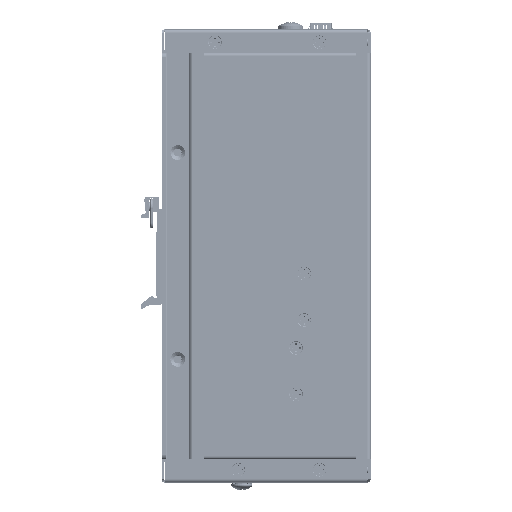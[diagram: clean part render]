
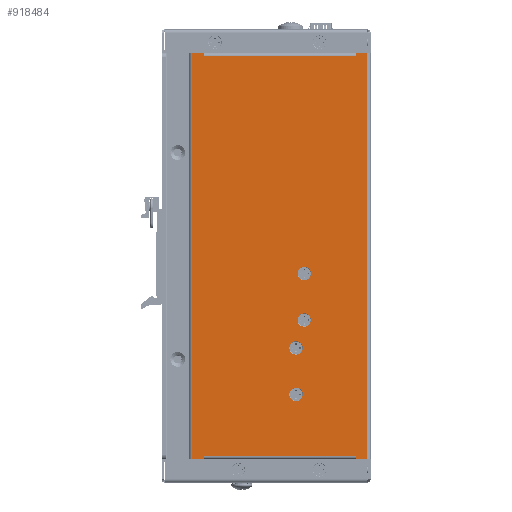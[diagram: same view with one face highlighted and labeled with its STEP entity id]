
A CAD part, left-side view. The second image highlights one B-rep face of the part: STEP entity #918484.
In plain terms, the highlighted planar face has unit normal (-1, 0, 0).
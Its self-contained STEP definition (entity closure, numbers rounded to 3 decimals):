
#913513=DIRECTION('',(0.,-1.,0.));
#913514=VECTOR('',#913513,5.);
#913515=CARTESIAN_POINT('',(-100.,6.4,-184.9));
#913516=LINE('',#913515,#913514);
#913517=DIRECTION('',(0.,0.,-1.));
#913518=VECTOR('',#913517,1.3);
#913519=CARTESIAN_POINT('',(-100.,6.4,-183.6));
#913520=LINE('',#913519,#913518);
#913521=DIRECTION('',(0.,0.,-1.));
#913522=VECTOR('',#913521,1.3);
#913523=CARTESIAN_POINT('',(-100.,71.7,-183.6));
#913524=LINE('',#913523,#913522);
#913525=DIRECTION('',(0.,-1.,0.));
#913526=VECTOR('',#913525,5.);
#913527=CARTESIAN_POINT('',(-100.,76.7,-184.9));
#913528=LINE('',#913527,#913526);
#913529=DIRECTION('',(0.,1.,0.));
#913530=VECTOR('',#913529,5.);
#913531=CARTESIAN_POINT('',(-100.,71.7,-10.1));
#913532=LINE('',#913531,#913530);
#913533=DIRECTION('',(0.,0.,1.));
#913534=VECTOR('',#913533,1.3);
#913535=CARTESIAN_POINT('',(-100.,71.7,-11.4));
#913536=LINE('',#913535,#913534);
#913537=DIRECTION('',(0.,0.,1.));
#913538=VECTOR('',#913537,1.3);
#913539=CARTESIAN_POINT('',(-100.,6.4,-11.4));
#913540=LINE('',#913539,#913538);
#913541=DIRECTION('',(0.,1.,0.));
#913542=VECTOR('',#913541,5.);
#913543=CARTESIAN_POINT('',(-100.,1.4,-10.1));
#913544=LINE('',#913543,#913542);
#913545=CARTESIAN_POINT('',(-100.,32.1,-157.05));
#913546=DIRECTION('',(1.,0.,0.));
#913547=DIRECTION('',(0.,-1.,0.));
#913548=AXIS2_PLACEMENT_3D('',#913545,#913546,#913547);
#913550=CARTESIAN_POINT('',(-100.,32.1,-157.05));
#913551=DIRECTION('',(1.,0.,0.));
#913552=DIRECTION('',(0.,1.,0.));
#913553=AXIS2_PLACEMENT_3D('',#913550,#913551,#913552);
#913555=CARTESIAN_POINT('',(-100.,32.1,-137.05));
#913556=DIRECTION('',(1.,0.,0.));
#913557=DIRECTION('',(0.,-1.,0.));
#913558=AXIS2_PLACEMENT_3D('',#913555,#913556,#913557);
#913560=CARTESIAN_POINT('',(-100.,32.1,-137.05));
#913561=DIRECTION('',(1.,0.,0.));
#913562=DIRECTION('',(0.,1.,0.));
#913563=AXIS2_PLACEMENT_3D('',#913560,#913561,#913562);
#913565=CARTESIAN_POINT('',(-100.,28.6,-125.05));
#913566=DIRECTION('',(1.,0.,0.));
#913567=DIRECTION('',(0.,-1.,0.));
#913568=AXIS2_PLACEMENT_3D('',#913565,#913566,#913567);
#913570=CARTESIAN_POINT('',(-100.,28.6,-125.05));
#913571=DIRECTION('',(1.,0.,0.));
#913572=DIRECTION('',(0.,1.,0.));
#913573=AXIS2_PLACEMENT_3D('',#913570,#913571,#913572);
#913575=CARTESIAN_POINT('',(-100.,28.6,-105.05));
#913576=DIRECTION('',(1.,0.,0.));
#913577=DIRECTION('',(0.,1.,0.));
#913578=AXIS2_PLACEMENT_3D('',#913575,#913576,#913577);
#913580=CARTESIAN_POINT('',(-100.,28.6,-105.05));
#913581=DIRECTION('',(1.,0.,0.));
#913582=DIRECTION('',(0.,-1.,0.));
#913583=AXIS2_PLACEMENT_3D('',#913580,#913581,#913582);
#915746=DIRECTION('',(0.,0.,-1.));
#915747=VECTOR('',#915746,174.8);
#915748=CARTESIAN_POINT('',(-100.,1.4,-10.1));
#915749=LINE('',#915748,#915747);
#916120=DIRECTION('',(0.,-1.,0.));
#916121=VECTOR('',#916120,65.3);
#916122=CARTESIAN_POINT('',(-100.,71.7,-11.4));
#916123=LINE('',#916122,#916121);
#916428=DIRECTION('',(0.,0.,1.));
#916429=VECTOR('',#916428,174.8);
#916430=CARTESIAN_POINT('',(-100.,76.7,-184.9));
#916431=LINE('',#916430,#916429);
#917010=DIRECTION('',(0.,1.,0.));
#917011=VECTOR('',#917010,65.3);
#917012=CARTESIAN_POINT('',(-100.,6.4,-183.6));
#917013=LINE('',#917012,#917011);
#917425=CARTESIAN_POINT('',(-100.,1.4,-184.9));
#917426=VERTEX_POINT('',#917425);
#917427=CARTESIAN_POINT('',(-100.,1.4,-10.1));
#917428=VERTEX_POINT('',#917427);
#917438=CARTESIAN_POINT('',(-100.,76.7,-10.1));
#917440=VERTEX_POINT('',#917438);
#917442=CARTESIAN_POINT('',(-100.,76.7,-184.9));
#917444=VERTEX_POINT('',#917442);
#917549=CARTESIAN_POINT('',(-100.,6.4,-11.4));
#917550=CARTESIAN_POINT('',(-100.,6.4,-10.1));
#917551=VERTEX_POINT('',#917549);
#917552=VERTEX_POINT('',#917550);
#917557=CARTESIAN_POINT('',(-100.,71.7,-11.4));
#917558=CARTESIAN_POINT('',(-100.,71.7,-10.1));
#917559=VERTEX_POINT('',#917557);
#917560=VERTEX_POINT('',#917558);
#917585=CARTESIAN_POINT('',(-100.,71.7,-183.6));
#917586=CARTESIAN_POINT('',(-100.,71.7,-184.9));
#917587=VERTEX_POINT('',#917585);
#917588=VERTEX_POINT('',#917586);
#917593=CARTESIAN_POINT('',(-100.,6.4,-183.6));
#917594=CARTESIAN_POINT('',(-100.,6.4,-184.9));
#917595=VERTEX_POINT('',#917593);
#917596=VERTEX_POINT('',#917594);
#917893=CARTESIAN_POINT('',(-100.,29.207,-157.05));
#917894=CARTESIAN_POINT('',(-100.,34.993,-157.05));
#917895=VERTEX_POINT('',#917893);
#917896=VERTEX_POINT('',#917894);
#917901=CARTESIAN_POINT('',(-100.,29.207,-137.05));
#917902=CARTESIAN_POINT('',(-100.,34.993,-137.05));
#917903=VERTEX_POINT('',#917901);
#917904=VERTEX_POINT('',#917902);
#917909=CARTESIAN_POINT('',(-100.,25.707,-125.05));
#917910=CARTESIAN_POINT('',(-100.,31.493,-125.05));
#917911=VERTEX_POINT('',#917909);
#917912=VERTEX_POINT('',#917910);
#917917=CARTESIAN_POINT('',(-100.,31.493,-105.05));
#917918=CARTESIAN_POINT('',(-100.,25.707,-105.05));
#917919=VERTEX_POINT('',#917917);
#917920=VERTEX_POINT('',#917918);
#918429=CARTESIAN_POINT('',(-100.,0.,0.));
#918430=DIRECTION('',(-1.,0.,0.));
#918431=DIRECTION('',(0.,0.,1.));
#918432=AXIS2_PLACEMENT_3D('',#918429,#918430,#918431);
#918433=PLANE('',#918432);
#918435=ORIENTED_EDGE('',*,*,#918434,.F.);
#918437=ORIENTED_EDGE('',*,*,#918436,.F.);
#918439=ORIENTED_EDGE('',*,*,#918438,.T.);
#918441=ORIENTED_EDGE('',*,*,#918440,.T.);
#918443=ORIENTED_EDGE('',*,*,#918442,.F.);
#918445=ORIENTED_EDGE('',*,*,#918444,.T.);
#918447=ORIENTED_EDGE('',*,*,#918446,.F.);
#918449=ORIENTED_EDGE('',*,*,#918448,.F.);
#918451=ORIENTED_EDGE('',*,*,#918450,.T.);
#918453=ORIENTED_EDGE('',*,*,#918452,.T.);
#918455=ORIENTED_EDGE('',*,*,#918454,.F.);
#918457=ORIENTED_EDGE('',*,*,#918456,.T.);
#918458=EDGE_LOOP('',(#918435,#918437,#918439,#918441,#918443,#918445,#918447,
#918449,#918451,#918453,#918455,#918457));
#918459=FACE_OUTER_BOUND('',#918458,.F.);
#918461=ORIENTED_EDGE('',*,*,#918460,.F.);
#918463=ORIENTED_EDGE('',*,*,#918462,.F.);
#918464=EDGE_LOOP('',(#918461,#918463));
#918465=FACE_BOUND('',#918464,.F.);
#918467=ORIENTED_EDGE('',*,*,#918466,.F.);
#918469=ORIENTED_EDGE('',*,*,#918468,.F.);
#918470=EDGE_LOOP('',(#918467,#918469));
#918471=FACE_BOUND('',#918470,.F.);
#918473=ORIENTED_EDGE('',*,*,#918472,.F.);
#918475=ORIENTED_EDGE('',*,*,#918474,.F.);
#918476=EDGE_LOOP('',(#918473,#918475));
#918477=FACE_BOUND('',#918476,.F.);
#918479=ORIENTED_EDGE('',*,*,#918478,.F.);
#918481=ORIENTED_EDGE('',*,*,#918480,.F.);
#918482=EDGE_LOOP('',(#918479,#918481));
#918483=FACE_BOUND('',#918482,.F.);
#918484=ADVANCED_FACE('',(#918459,#918465,#918471,#918477,#918483),#918433,.T.);
#913549=CIRCLE('',#913548,2.893);
#913554=CIRCLE('',#913553,2.893);
#913559=CIRCLE('',#913558,2.893);
#913564=CIRCLE('',#913563,2.893);
#913569=CIRCLE('',#913568,2.893);
#913574=CIRCLE('',#913573,2.893);
#913579=CIRCLE('',#913578,2.893);
#913584=CIRCLE('',#913583,2.893);
#918434=EDGE_CURVE('',#917596,#917426,#913516,.T.);
#918436=EDGE_CURVE('',#917595,#917596,#913520,.T.);
#918438=EDGE_CURVE('',#917595,#917587,#917013,.T.);
#918440=EDGE_CURVE('',#917587,#917588,#913524,.T.);
#918442=EDGE_CURVE('',#917444,#917588,#913528,.T.);
#918444=EDGE_CURVE('',#917444,#917440,#916431,.T.);
#918446=EDGE_CURVE('',#917560,#917440,#913532,.T.);
#918448=EDGE_CURVE('',#917559,#917560,#913536,.T.);
#918450=EDGE_CURVE('',#917559,#917551,#916123,.T.);
#918452=EDGE_CURVE('',#917551,#917552,#913540,.T.);
#918454=EDGE_CURVE('',#917428,#917552,#913544,.T.);
#918456=EDGE_CURVE('',#917428,#917426,#915749,.T.);
#918460=EDGE_CURVE('',#917895,#917896,#913549,.T.);
#918462=EDGE_CURVE('',#917896,#917895,#913554,.T.);
#918466=EDGE_CURVE('',#917903,#917904,#913559,.T.);
#918468=EDGE_CURVE('',#917904,#917903,#913564,.T.);
#918472=EDGE_CURVE('',#917911,#917912,#913569,.T.);
#918474=EDGE_CURVE('',#917912,#917911,#913574,.T.);
#918478=EDGE_CURVE('',#917919,#917920,#913579,.T.);
#918480=EDGE_CURVE('',#917920,#917919,#913584,.T.);
